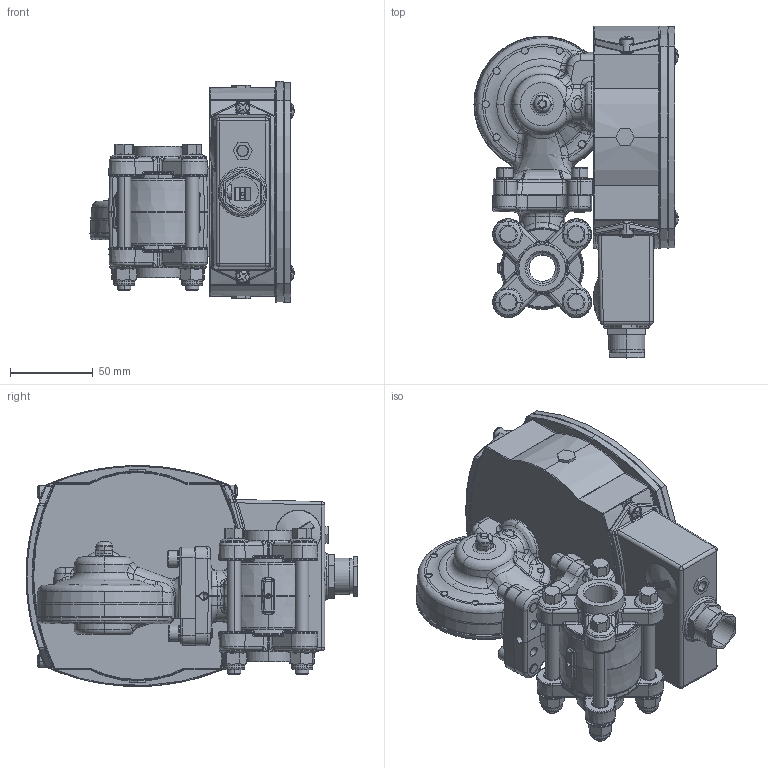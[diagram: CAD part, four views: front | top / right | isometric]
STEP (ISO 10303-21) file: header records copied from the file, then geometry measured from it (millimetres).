
FILE_DESCRIPTION (( 'STEP AP214' ), '1' );
FILE_NAME ('S GL15.STEP', '2016-09-21T13:38:43', ( 'User' ), ( 'HP' ), 'SwSTEP 2.0', 'SolidWorks 2016', '' );
FILE_SCHEMA (( 'AUTOMOTIVE_DESIGN' ));
Length unit declared in the file: millimetre
Products named in the file (36): ID_2_1_1; ID_2_4; ID_1_3_1; ID_1_4; S hus; M5 membranskruvar_1; ID_1_4_8; skruv_membranhus_1; ID_14; fj_X_E4derbricka till membranhus BR_1; ID_13; MC6S M6x22_1; ID_12; Lock kontrollerad HMAB ELETTA 20160908_1; ID_1_1; ID_1_4_5; Membranhus kontrollerad HMAB ELETTA 20160908_1; ID_10; ID_1_4_4; S2_25_internal_2_1; ID_1_4_3; kupolmutter_1; ID_1_1_2; m_X_E4ssingsmembran_1; ID_9; ID_1_4_2; S GL15; ID_7_2; GL15; ID_6_1; ID_5_1_1; ID_5_2; ID_4_1_1; ID_4_3; ID_3_1_1; ID_3_3
Assembly tree (60 placements, depth 5):
  S GL15
    S2_25_internal_2_1
      m_X_E4ssingsmembran_1
      kupolmutter_1
    Membranhus kontrollerad HMAB ELETTA 20160908_1
    Lock kontrollerad HMAB ELETTA 20160908_1
    MC6S M6x22_1  x4
    M5 membranskruvar_1  x9
      fj_X_E4derbricka till membranhus BR_1
      skruv_membranhus_1
    S hus
      ID_1_1
        ID_1_4
        ID_2_4
        ID_3_3
        ID_4_3
        ID_5_2
        ID_6_1  x4
        ID_7_2  x4
        ID_1_4_2
        ID_1_1_2
          ID_9  x2
        ID_1_4_3
        ID_1_4_4
        ID_10
        ID_1_4_5
      ID_12  x2
      ID_13
      ID_14
      ID_1_4_8
    GL15
      ID_1_3_1
      ID_2_1_1
      ID_3_1_1
      ID_4_1_1  x4
      ID_5_1_1  x4
Bounding box: 123.18 x 200.42 x 133.42 mm (x, y, z)
Volume: 546612.4 mm3; surface area: 281390.4 mm2
Topology: 63 solids, 63 shells, 3304 faces, 8169 edges, 5009 vertices
Faces by surface type: bspline 1073, plane 967, cylinder 826, cone 364, torus 67, sphere 7
Entity records: 152589 total; most frequent: CARTESIAN_POINT 96928, ORIENTED_EDGE 12626, DIRECTION 9218, EDGE_CURVE 6313, VERTEX_POINT 3868, AXIS2_PLACEMENT_3D 3527, EDGE_LOOP 2813, ADVANCED_FACE 2584
